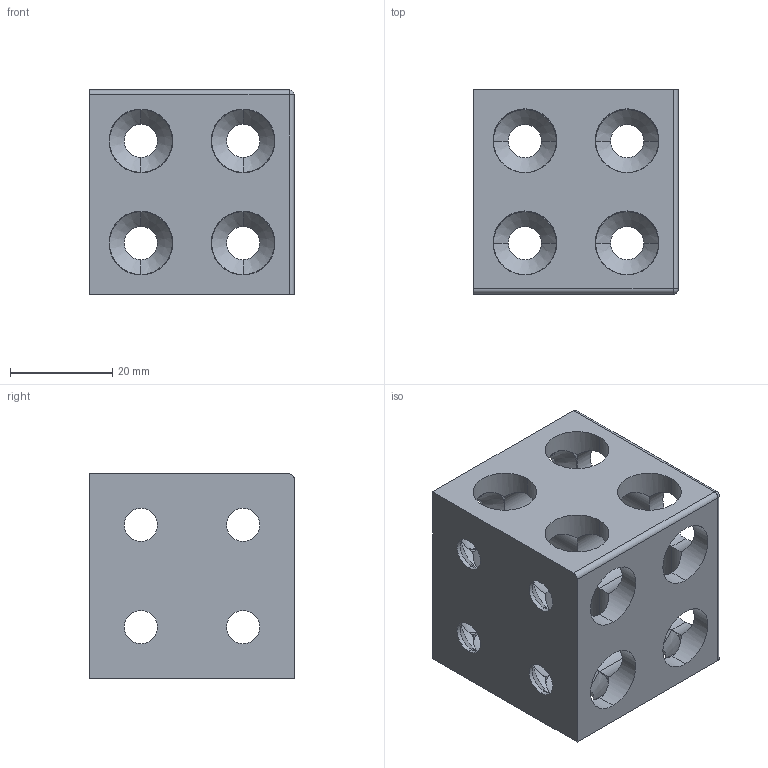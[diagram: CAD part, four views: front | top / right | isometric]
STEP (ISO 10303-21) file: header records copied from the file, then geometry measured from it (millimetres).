
FILE_DESCRIPTION (( 'STEP AP214' ), '1' );
FILE_NAME ('Êóáèê 3 ñòîðîíû 40õ40 ïàç 6.STEP', '2023-03-29T12:39:33', ( 'ÌÊÌ' ), ( '' ), 'SwSTEP 2.0', 'SolidWorks 2022', '' );
FILE_SCHEMA (( 'AUTOMOTIVE_DESIGN' ));
Length unit declared in the file: millimetre
Products named in the file (1): Кубик 3 стороны 40х40 паз 6
Bounding box: 40 x 40 x 40 mm (x, y, z)
Volume: 29858.8 mm3; surface area: 15861.1 mm2
Topology: 1 solids, 1 shells, 166 faces, 436 edges, 251 vertices
Faces by surface type: cylinder 123, cone 24, plane 18, sphere 1
Entity records: 5139 total; most frequent: CARTESIAN_POINT 1375, ORIENTED_EDGE 870, DIRECTION 745, EDGE_CURVE 435, AXIS2_PLACEMENT_3D 317, VERTEX_POINT 251, EDGE_LOOP 202, ADVANCED_FACE 166
